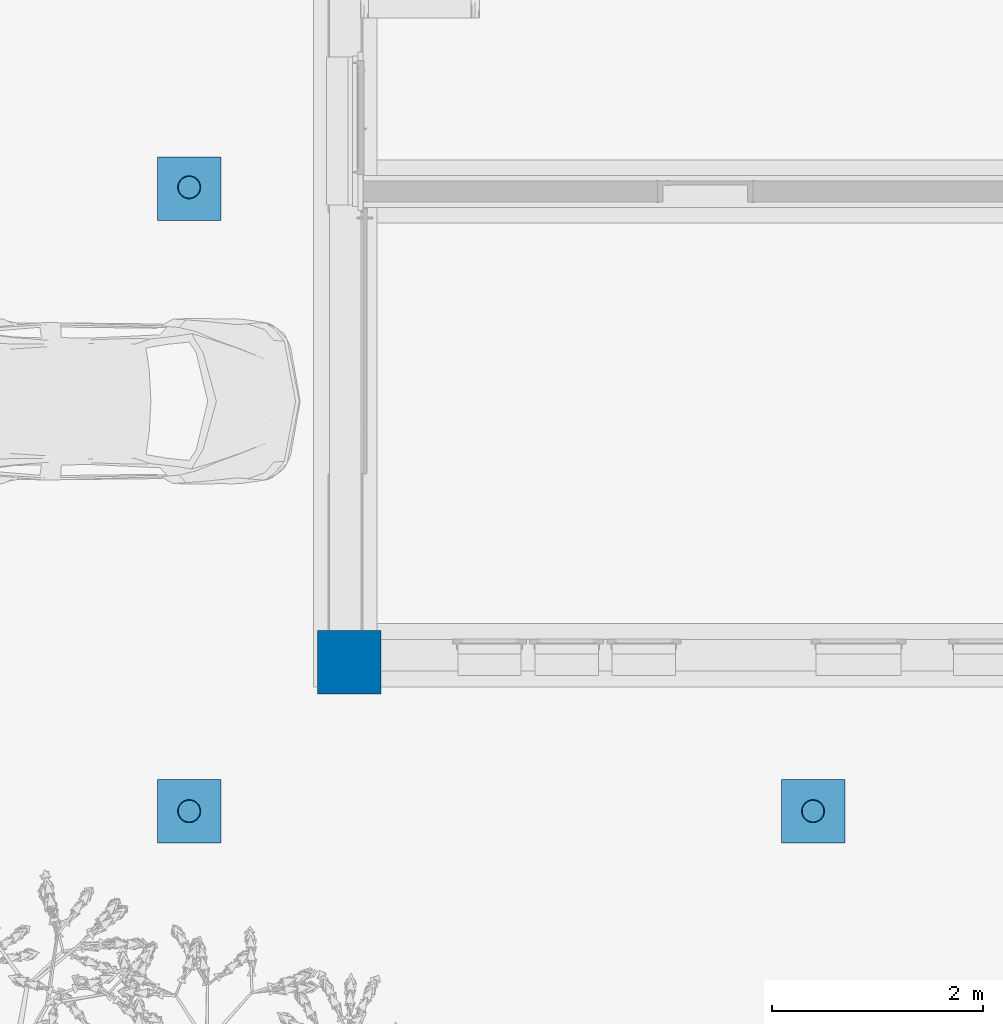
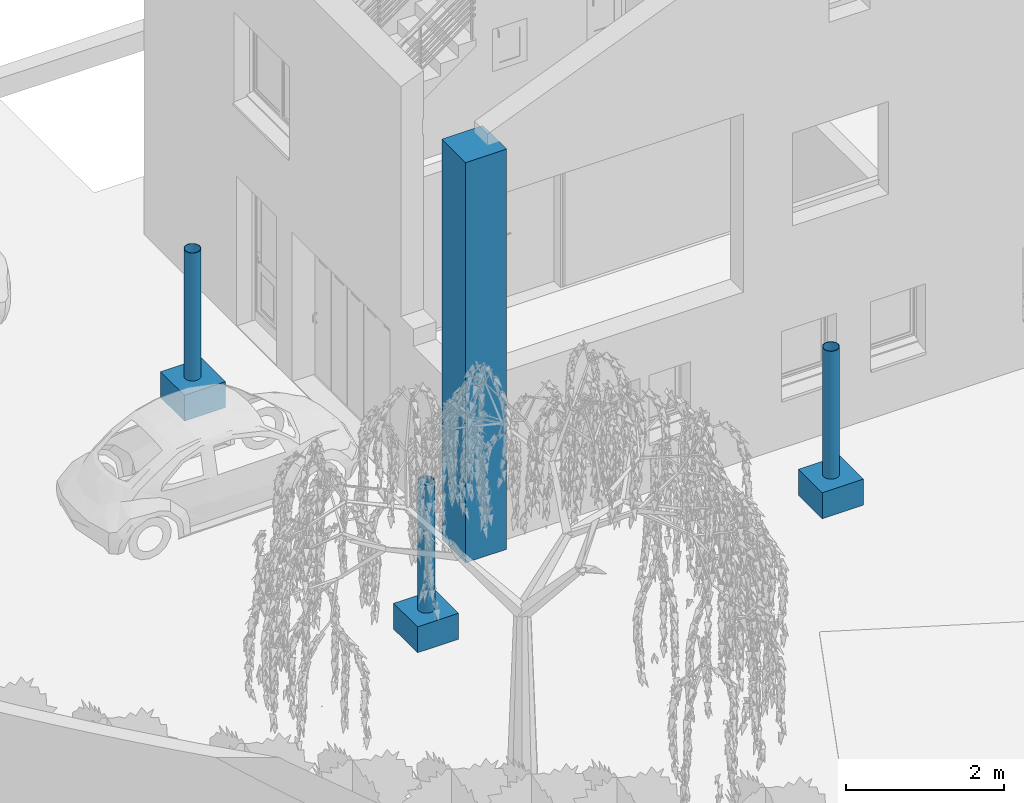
# One storey, part 1 of 20: 7 columns.
"""IFC2X3 building model written with IfcOpenShell, lengths in metres."""

from ifc_helpers import new_model, entity, si_unit, converted_unit, derived_unit, direction, frame, frame_2d, origin, origin_2d_with_axis, place, context, subcontext, project, spatial, rectangle, hollow_circle, extrude, source, transform, mapped, material, type_object, type_shapes, element, save


model = new_model("IFC2X3")

# Units and contexts
model_context = context("Model", 3, precision=1e-05, world=origin(), true_north=direction((6.12303176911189e-17, 1.0)))
body_context = subcontext(model_context, "Body", "Model", "MODEL_VIEW")
ifc_project = project(units=[si_unit("LENGTHUNIT", "METRE"), si_unit("AREAUNIT", "SQUARE_METRE"), si_unit("VOLUMEUNIT", "CUBIC_METRE"), converted_unit("PLANEANGLEUNIT", "DEGREE", entity("IfcRatioMeasure", 0.0174532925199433), si_unit("PLANEANGLEUNIT", "RADIAN"), dimensions=[0, 0, 0, 0, 0, 0, 0]), si_unit("MASSUNIT", "GRAM", prefix="KILO"), derived_unit("MASSDENSITYUNIT", [(si_unit("MASSUNIT", "GRAM", prefix="KILO"), 1), (si_unit("LENGTHUNIT", "METRE"), -3)]), derived_unit("MOMENTOFINERTIAUNIT", [(si_unit("LENGTHUNIT", "METRE"), 4)]), si_unit("TIMEUNIT", "SECOND"), si_unit("FREQUENCYUNIT", "HERTZ"), si_unit("THERMODYNAMICTEMPERATUREUNIT", "DEGREE_CELSIUS"), derived_unit("THERMALTRANSMITTANCEUNIT", [(si_unit("MASSUNIT", "GRAM", prefix="KILO"), 1), (si_unit("THERMODYNAMICTEMPERATUREUNIT", "KELVIN"), -1), (si_unit("TIMEUNIT", "SECOND"), -3)]), derived_unit("VOLUMETRICFLOWRATEUNIT", [(si_unit("LENGTHUNIT", "METRE"), 3), (si_unit("TIMEUNIT", "SECOND"), -1)]), si_unit("ELECTRICCURRENTUNIT", "AMPERE"), si_unit("ELECTRICVOLTAGEUNIT", "VOLT"), si_unit("POWERUNIT", "WATT"), si_unit("FORCEUNIT", "NEWTON", prefix="KILO"), si_unit("ILLUMINANCEUNIT", "LUX"), si_unit("LUMINOUSFLUXUNIT", "LUMEN"), si_unit("LUMINOUSINTENSITYUNIT", "CANDELA"), derived_unit("USERDEFINED", [(si_unit("MASSUNIT", "GRAM", prefix="KILO"), -1), (si_unit("LENGTHUNIT", "METRE"), -2), (si_unit("TIMEUNIT", "SECOND"), 3), (si_unit("LUMINOUSFLUXUNIT", "LUMEN"), 1)]), derived_unit("LINEARVELOCITYUNIT", [(si_unit("LENGTHUNIT", "METRE"), 1), (si_unit("TIMEUNIT", "SECOND"), -1)]), si_unit("PRESSUREUNIT", "PASCAL"), derived_unit("USERDEFINED", [(si_unit("LENGTHUNIT", "METRE"), -2), (si_unit("MASSUNIT", "GRAM", prefix="KILO"), 1), (si_unit("TIMEUNIT", "SECOND"), -2)]), derived_unit("LINEARFORCEUNIT", [(si_unit("MASSUNIT", "GRAM", prefix="KILO"), 1), (si_unit("LENGTHUNIT", "METRE"), 1), (si_unit("TIMEUNIT", "SECOND"), -2), (si_unit("LENGTHUNIT", "METRE"), -1)]), derived_unit("PLANARFORCEUNIT", [(si_unit("MASSUNIT", "GRAM", prefix="KILO"), 1), (si_unit("LENGTHUNIT", "METRE"), 1), (si_unit("TIMEUNIT", "SECOND"), -2), (si_unit("LENGTHUNIT", "METRE"), -2)])], contexts=[model_context])

# Site, building, storey
site_placement = place(None, origin())
site = spatial("IfcSite", under=ifc_project, at=site_placement, Name="Surface", CompositionType="ELEMENT")
building_placement = place(site_placement, origin())
building = spatial("IfcBuilding", under=site, at=building_placement, CompositionType="ELEMENT")
storey_placement = place(building_placement, origin())
storey = spatial("IfcBuildingStorey", under=building, at=storey_placement, Name="Niveau rdc", CompositionType="ELEMENT", Elevation=-1.94916083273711e-14)

# Columns
ifc_material_1 = material(Name="Maçonnerie - Béton coulé sur place")
column_type_1 = type_object("IfcColumnType", Name="Poteau béton - Carré:600mm x 600mm", PredefinedType="COLUMN", material=ifc_material_1)
shared_shape_1 = source(origin(), body_context, "Body", "SweptSolid", [
    extrude(rectangle(XDim=0.6, YDim=0.6, at=origin_2d_with_axis()), frame((1.7543960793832, -0.645741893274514, 0.0), z_axis=(0.0, 0.0, 1.0), x_axis=(0.0, -1.0, 0.0)), (0.0, 0.0, 1.0), 6.16673077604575),
])
type_shapes(column_type_1, [shared_shape_1])
column_placement = place(storey_placement, origin())
element("IfcColumn", 1, at=column_placement, inside=storey, type_object=column_type_1, Name="Poteau béton - Carré:600mm x 600mm", ObjectType="Poteau béton - Carré:600mm x 600mm", context=body_context, shape_type="MappedRepresentation", body=[
    mapped(shared_shape_1, transform((0.0, 0.0, 0.0), scale=1.0)),
])
column_type_2 = type_object("IfcColumnType", Name="Poteau béton - Carré:600mm x 600mm", PredefinedType="COLUMN", material=ifc_material_1)
shared_shape_2 = source(origin(), body_context, "Body", "SweptSolid", [
    extrude(rectangle(XDim=0.6, YDim=0.6, at=origin_2d_with_axis()), frame((0.0, 0.0, 0.0), z_axis=(0.0, 0.0, 1.0), x_axis=(0.0, -1.0, 0.0)), (0.0, 0.0, 1.0), 0.4),
])
type_shapes(column_type_2, [shared_shape_2])
for number, where in (
    (2, (0.239396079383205, 3.82925810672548, 0.0)),
    (3, (0.239396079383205, -2.05574189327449, 0.0)),
    (4, (6.13939607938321, -2.05574189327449, 0.0)),
):
    element("IfcColumn", number, at=place(storey_placement, frame(where)), inside=storey, type_object=column_type_2, Name="Poteau béton - Carré:600mm x 600mm", ObjectType="Poteau béton - Carré:600mm x 600mm", context=body_context, shape_type="MappedRepresentation", body=[
        mapped(shared_shape_2, transform((0.0, 0.0, 0.0), scale=1.0)),
    ])
ifc_material_2 = material(Name="Peinture - Noir")
column_type_3 = type_object("IfcColumnType", Name="Profil creux circulaire PCC:219.1x8CHS", PredefinedType="COLUMN", material=ifc_material_2)
shared_shape_3 = source(origin(), body_context, "Body", "SweptSolid", [
    extrude(hollow_circle(Radius=0.10955, WallThickness=0.00799999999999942, at=frame_2d((-5.27018739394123e-18, 1.77146931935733e-16), x_axis=(1.0, 0.0))), frame((0.0, 0.0, 0.399999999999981)), (0.0, 0.0, 1.0), 1.97000000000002),
])
type_shapes(column_type_3, [shared_shape_3])
for number, where, name in (
    (5, (0.239396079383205, 3.84425810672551, 0.0), "Profil creux circulaire PCC:219.1x8CHS"),
    (6, (0.239396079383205, -2.05574189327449, 0.0), "Profil creux circulaire PCC:219.1x8CHS"),
    (7, (6.13939607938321, -2.05574189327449, 0.0), "Profil creux circulaire PCC:219.1x8CHS"),
):
    element("IfcColumn", number, at=place(storey_placement, frame(where)), inside=storey, type_object=column_type_3, material=ifc_material_2, Name=name, ObjectType="Profil creux circulaire PCC:219.1x8CHS", context=body_context, shape_type="MappedRepresentation", body=[
        mapped(shared_shape_3, transform((0.0, 0.0, 0.0), scale=1.0)),
    ])

save(model, "model.ifc")
